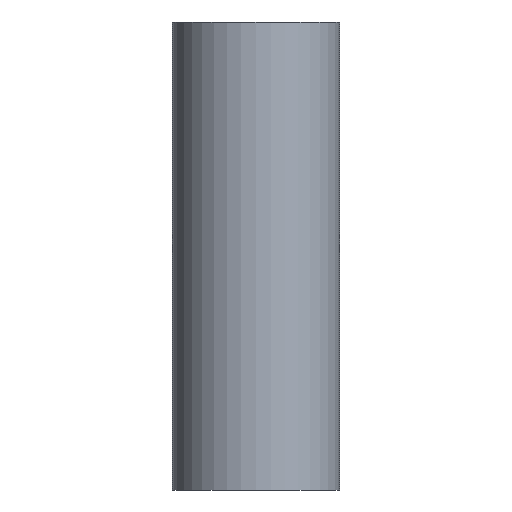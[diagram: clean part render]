
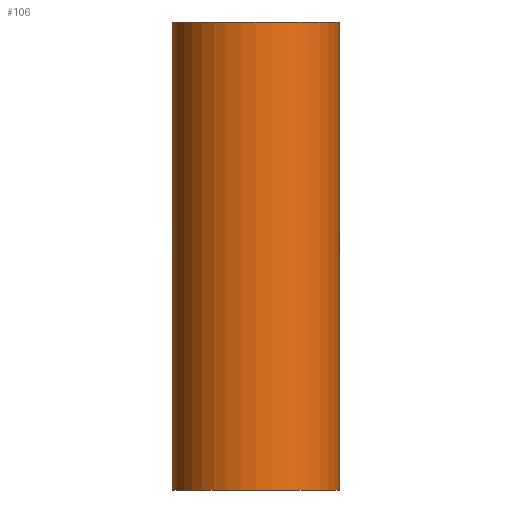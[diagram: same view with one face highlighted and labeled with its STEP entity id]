
A CAD part, left-side view. The second image highlights one B-rep face of the part: STEP entity #106.
In plain terms, the highlighted cylindrical face has radius 37.5 mm (diameter 75 mm), a full revolution.
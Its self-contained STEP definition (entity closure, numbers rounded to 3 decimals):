
#23=FACE_BOUND('',#47,.T.);
#24=FACE_BOUND('',#48,.T.);
#27=B_SPLINE_CURVE_WITH_KNOTS('',3,(#253,#254,#255,#256,#257,#258,#259,
#260,#261,#262,#263,#264,#265,#266,#267,#268,#269,#270,#271,#272,#273,#274,
#275,#276,#277,#278,#279,#280,#281,#282,#283,#284,#285,#286,#287,#288,#289,
#290,#291,#292,#293,#294,#295,#296,#297,#298,#299,#300,#301,#302,#303,#304,
#305,#306,#307,#308,#309,#310,#311,#312,#313,#314,#315,#316,#317,#318),
 .UNSPECIFIED.,.T.,.F.,(4,2,2,2,2,2,2,2,2,2,2,2,2,2,2,2,2,2,2,2,2,2,2,2,
2,2,2,2,2,2,2,2,4),(0.,0.869,1.738,3.476,
4.344,5.212,5.7,5.944,6.187,
6.429,6.671,7.155,8.012,8.87,
10.622,11.499,12.375,12.971,13.567,
14.163,14.759,15.292,15.825,16.357,
16.89,17.423,17.956,18.488,19.021,
19.617,20.213,20.809,21.405),
 .UNSPECIFIED.);
#33=FACE_OUTER_BOUND('',#46,.T.);
#46=EDGE_LOOP('',(#84));
#47=EDGE_LOOP('',(#85));
#48=EDGE_LOOP('',(#86));
#55=CIRCLE('',#137,37.5);
#56=CIRCLE('',#139,37.5);
#62=VERTEX_POINT('',#252);
#63=VERTEX_POINT('',#321);
#64=VERTEX_POINT('',#324);
#70=EDGE_CURVE('',#62,#62,#27,.T.);
#71=EDGE_CURVE('',#63,#63,#55,.T.);
#72=EDGE_CURVE('',#64,#64,#56,.T.);
#84=ORIENTED_EDGE('',*,*,#71,.T.);
#85=ORIENTED_EDGE('',*,*,#70,.T.);
#86=ORIENTED_EDGE('',*,*,#72,.F.);
#92=CYLINDRICAL_SURFACE('',#138,37.5);
#106=ADVANCED_FACE('',(#33,#23,#24),#92,.T.);
#137=AXIS2_PLACEMENT_3D('',#322,#161,#162);
#138=AXIS2_PLACEMENT_3D('',#323,#163,#164);
#139=AXIS2_PLACEMENT_3D('',#325,#165,#166);
#161=DIRECTION('center_axis',(0.,0.,-1.));
#162=DIRECTION('ref_axis',(1.,0.,0.));
#163=DIRECTION('center_axis',(0.,0.,-1.));
#164=DIRECTION('ref_axis',(-1.,0.,0.));
#165=DIRECTION('center_axis',(0.,0.,-1.));
#166=DIRECTION('ref_axis',(1.,0.,0.));
#252=CARTESIAN_POINT('',(24.945,-28.,94.945));
#253=CARTESIAN_POINT('Ctrl Pts',(24.945,-28.,94.945));
#254=CARTESIAN_POINT('Ctrl Pts',(24.945,-28.,97.842));
#255=CARTESIAN_POINT('Ctrl Pts',(25.197,-27.779,100.819));
#256=CARTESIAN_POINT('Ctrl Pts',(26.025,-27.005,106.818));
#257=CARTESIAN_POINT('Ctrl Pts',(26.601,-26.449,109.839));
#258=CARTESIAN_POINT('Ctrl Pts',(28.585,-24.349,118.775));
#259=CARTESIAN_POINT('Ctrl Pts',(30.237,-22.367,124.558));
#260=CARTESIAN_POINT('Ctrl Pts',(32.532,-18.708,132.095));
#261=CARTESIAN_POINT('Ctrl Pts',(33.378,-17.204,134.765));
#262=CARTESIAN_POINT('Ctrl Pts',(34.982,-13.65,139.686));
#263=CARTESIAN_POINT('Ctrl Pts',(35.737,-11.599,141.937));
#264=CARTESIAN_POINT('Ctrl Pts',(36.645,-8.071,144.61));
#265=CARTESIAN_POINT('Ctrl Pts',(36.956,-6.568,145.519));
#266=CARTESIAN_POINT('Ctrl Pts',(37.278,-4.153,146.455));
#267=CARTESIAN_POINT('Ctrl Pts',(37.362,-3.321,146.698));
#268=CARTESIAN_POINT('Ctrl Pts',(37.473,-1.651,147.02));
#269=CARTESIAN_POINT('Ctrl Pts',(37.5,-0.813,147.098));
#270=CARTESIAN_POINT('Ctrl Pts',(37.5,0.806,147.098));
#271=CARTESIAN_POINT('Ctrl Pts',(37.473,1.637,147.021));
#272=CARTESIAN_POINT('Ctrl Pts',(37.364,3.295,146.705));
#273=CARTESIAN_POINT('Ctrl Pts',(37.282,4.121,146.465));
#274=CARTESIAN_POINT('Ctrl Pts',(36.964,6.52,145.542));
#275=CARTESIAN_POINT('Ctrl Pts',(36.657,8.014,144.646));
#276=CARTESIAN_POINT('Ctrl Pts',(35.763,11.515,142.013));
#277=CARTESIAN_POINT('Ctrl Pts',(35.019,13.552,139.798));
#278=CARTESIAN_POINT('Ctrl Pts',(33.438,17.085,134.952));
#279=CARTESIAN_POINT('Ctrl Pts',(32.603,18.584,132.322));
#280=CARTESIAN_POINT('Ctrl Pts',(30.303,22.283,124.79));
#281=CARTESIAN_POINT('Ctrl Pts',(28.633,24.295,118.964));
#282=CARTESIAN_POINT('Ctrl Pts',(26.625,26.426,109.96));
#283=CARTESIAN_POINT('Ctrl Pts',(26.041,26.989,106.915));
#284=CARTESIAN_POINT('Ctrl Pts',(25.201,27.776,100.868));
#285=CARTESIAN_POINT('Ctrl Pts',(24.945,28.,97.866));
#286=CARTESIAN_POINT('Ctrl Pts',(24.945,28.,92.959));
#287=CARTESIAN_POINT('Ctrl Pts',(25.067,27.894,90.89));
#288=CARTESIAN_POINT('Ctrl Pts',(25.665,27.345,86.827));
#289=CARTESIAN_POINT('Ctrl Pts',(26.144,26.899,84.834));
#290=CARTESIAN_POINT('Ctrl Pts',(27.427,25.59,81.138));
#291=CARTESIAN_POINT('Ctrl Pts',(28.231,24.721,79.425));
#292=CARTESIAN_POINT('Ctrl Pts',(29.968,22.585,76.392));
#293=CARTESIAN_POINT('Ctrl Pts',(30.895,21.317,75.069));
#294=CARTESIAN_POINT('Ctrl Pts',(32.547,18.684,72.949));
#295=CARTESIAN_POINT('Ctrl Pts',(33.326,17.277,72.055));
#296=CARTESIAN_POINT('Ctrl Pts',(34.746,14.207,70.523));
#297=CARTESIAN_POINT('Ctrl Pts',(35.386,12.544,69.885));
#298=CARTESIAN_POINT('Ctrl Pts',(36.431,9.072,68.875));
#299=CARTESIAN_POINT('Ctrl Pts',(36.837,7.259,68.503));
#300=CARTESIAN_POINT('Ctrl Pts',(37.371,3.611,68.016));
#301=CARTESIAN_POINT('Ctrl Pts',(37.5,1.776,67.902));
#302=CARTESIAN_POINT('Ctrl Pts',(37.5,-1.776,67.902));
#303=CARTESIAN_POINT('Ctrl Pts',(37.371,-3.611,68.016));
#304=CARTESIAN_POINT('Ctrl Pts',(36.837,-7.259,68.503));
#305=CARTESIAN_POINT('Ctrl Pts',(36.431,-9.072,68.875));
#306=CARTESIAN_POINT('Ctrl Pts',(35.386,-12.544,69.885));
#307=CARTESIAN_POINT('Ctrl Pts',(34.746,-14.207,70.523));
#308=CARTESIAN_POINT('Ctrl Pts',(33.326,-17.277,72.055));
#309=CARTESIAN_POINT('Ctrl Pts',(32.547,-18.684,72.949));
#310=CARTESIAN_POINT('Ctrl Pts',(30.895,-21.317,75.069));
#311=CARTESIAN_POINT('Ctrl Pts',(29.968,-22.585,76.392));
#312=CARTESIAN_POINT('Ctrl Pts',(28.231,-24.721,79.425));
#313=CARTESIAN_POINT('Ctrl Pts',(27.427,-25.59,81.138));
#314=CARTESIAN_POINT('Ctrl Pts',(26.144,-26.899,84.834));
#315=CARTESIAN_POINT('Ctrl Pts',(25.665,-27.345,86.827));
#316=CARTESIAN_POINT('Ctrl Pts',(25.067,-27.894,90.89));
#317=CARTESIAN_POINT('Ctrl Pts',(24.945,-28.,92.959));
#318=CARTESIAN_POINT('Ctrl Pts',(24.945,-28.,94.945));
#321=CARTESIAN_POINT('',(-37.5,0.,210.));
#322=CARTESIAN_POINT('Origin',(0.,0.,210.));
#323=CARTESIAN_POINT('Origin',(0.,0.,105.));
#324=CARTESIAN_POINT('',(-37.5,0.,0.));
#325=CARTESIAN_POINT('Origin',(0.,0.,0.));
